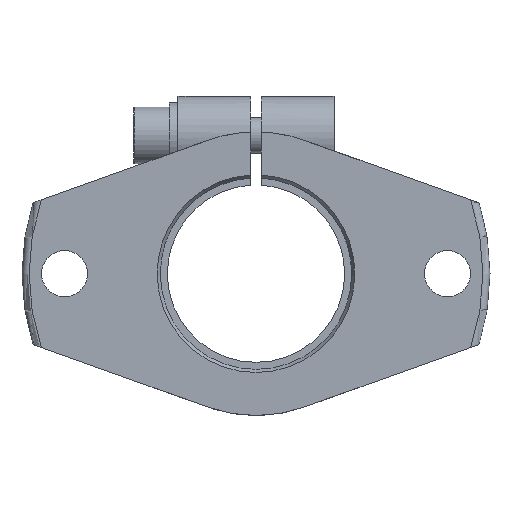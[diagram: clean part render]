
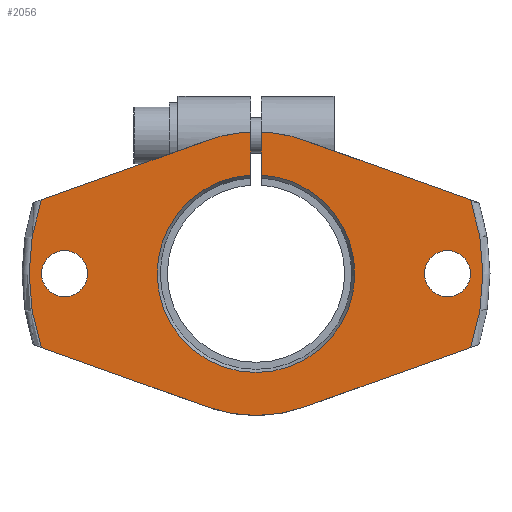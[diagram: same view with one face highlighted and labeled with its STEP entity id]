
A CAD part, left-side view. The second image highlights one B-rep face of the part: STEP entity #2056.
In plain terms, the highlighted planar face has unit normal (-1, 0, 0).
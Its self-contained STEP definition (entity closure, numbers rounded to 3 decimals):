
#481=CARTESIAN_POINT('',(0.0,-60.507,-20.854));
#482=VERTEX_POINT('',#481);
#519=CARTESIAN_POINT('',(0.0,-60.507,20.854));
#520=VERTEX_POINT('',#519);
#549=CARTESIAN_POINT('',(0.0,0.0,0.0));
#550=DIRECTION('',(1.0,0.0,0.0));
#551=DIRECTION('',(0.0,-1.0,0.0));
#552=AXIS2_PLACEMENT_3D('',#549,#550,#551);
#553=CIRCLE('',#552,64.0);
#554=EDGE_CURVE('',#520,#482,#553,.T.);
#637=CARTESIAN_POINT('',(0.0,-13.461,37.667));
#638=VERTEX_POINT('',#637);
#645=CARTESIAN_POINT('',(0.0,-13.461,37.667));
#646=DIRECTION('',(0.0,-0.942,-0.337));
#647=VECTOR('',#646,49.96);
#648=LINE('',#645,#647);
#649=EDGE_CURVE('',#638,#520,#648,.T.);
#684=CARTESIAN_POINT('',(0.0,60.507,20.854));
#685=VERTEX_POINT('',#684);
#722=CARTESIAN_POINT('',(0.0,60.507,-20.854));
#723=VERTEX_POINT('',#722);
#752=CARTESIAN_POINT('',(0.0,0.0,0.0));
#753=DIRECTION('',(1.0,0.0,0.0));
#754=DIRECTION('',(0.0,1.0,0.0));
#755=AXIS2_PLACEMENT_3D('',#752,#753,#754);
#756=CIRCLE('',#755,64.0);
#757=EDGE_CURVE('',#723,#685,#756,.T.);
#800=CARTESIAN_POINT('',(0.0,13.461,37.667));
#801=VERTEX_POINT('',#800);
#802=CARTESIAN_POINT('',(0.0,60.507,20.854));
#803=DIRECTION('',(0.0,-0.942,0.337));
#804=VECTOR('',#803,49.96);
#805=LINE('',#802,#804);
#806=EDGE_CURVE('',#685,#801,#805,.T.);
#1143=CARTESIAN_POINT('',(0.0,-13.461,-37.667));
#1144=VERTEX_POINT('',#1143);
#1151=CARTESIAN_POINT('',(0.0,13.461,-37.667));
#1152=VERTEX_POINT('',#1151);
#1153=CARTESIAN_POINT('',(0.0,0.0,0.0));
#1154=DIRECTION('',(1.0,0.0,0.0));
#1155=DIRECTION('',(0.0,1.0,0.0));
#1156=AXIS2_PLACEMENT_3D('',#1153,#1154,#1155);
#1157=CIRCLE('',#1156,40.0);
#1158=EDGE_CURVE('',#1144,#1152,#1157,.T.);
#1551=CARTESIAN_POINT('',(0.0,1.5,39.972));
#1552=VERTEX_POINT('',#1551);
#1559=CARTESIAN_POINT('',(0.0,1.5,27.826));
#1560=VERTEX_POINT('',#1559);
#1561=CARTESIAN_POINT('',(0.0,1.5,27.826));
#1562=DIRECTION('',(0.0,0.0,1.0));
#1563=VECTOR('',#1562,12.146);
#1564=LINE('',#1561,#1563);
#1565=EDGE_CURVE('',#1560,#1552,#1564,.T.);
#1676=CARTESIAN_POINT('',(0.0,60.5,0.));
#1677=VERTEX_POINT('',#1676);
#1678=CARTESIAN_POINT('',(0.0,54.0,0.));
#1679=DIRECTION('',(1.0,0.0,0.0));
#1680=DIRECTION('',(0.0,1.0,0.0));
#1681=AXIS2_PLACEMENT_3D('',#1678,#1679,#1680);
#1682=CIRCLE('',#1681,6.5);
#1683=EDGE_CURVE('',#1677,#1677,#1682,.T.);
#1704=CARTESIAN_POINT('',(0.0,-47.5,0.));
#1705=VERTEX_POINT('',#1704);
#1706=CARTESIAN_POINT('',(0.0,-54.,0.));
#1707=DIRECTION('',(1.0,0.0,0.0));
#1708=DIRECTION('',(0.0,1.0,0.0));
#1709=AXIS2_PLACEMENT_3D('',#1706,#1707,#1708);
#1710=CIRCLE('',#1709,6.5);
#1711=EDGE_CURVE('',#1705,#1705,#1710,.T.);
#1808=CARTESIAN_POINT('',(0.0,-1.5,27.826));
#1809=VERTEX_POINT('',#1808);
#1810=CARTESIAN_POINT('',(0.0,0.0,0.0));
#1811=DIRECTION('',(-1.0,0.0,0.0));
#1812=DIRECTION('',(0.0,0.0,-1.0));
#1813=AXIS2_PLACEMENT_3D('',#1810,#1811,#1812);
#1814=CIRCLE('',#1813,27.866);
#1815=EDGE_CURVE('',#1560,#1809,#1814,.T.);
#1887=CARTESIAN_POINT('',(0.0,-1.5,39.972));
#1888=VERTEX_POINT('',#1887);
#1889=CARTESIAN_POINT('',(0.0,-1.5,39.972));
#1890=DIRECTION('',(0.0,0.0,-1.0));
#1891=VECTOR('',#1890,12.146);
#1892=LINE('',#1889,#1891);
#1893=EDGE_CURVE('',#1888,#1809,#1892,.T.);
#1993=CARTESIAN_POINT('',(0.0,0.0,0.0));
#1994=DIRECTION('',(1.0,0.0,0.0));
#1995=DIRECTION('',(0.0,1.0,0.0));
#1996=AXIS2_PLACEMENT_3D('',#1993,#1994,#1995);
#1997=CIRCLE('',#1996,40.0);
#1998=EDGE_CURVE('',#801,#1552,#1997,.T.);
#2009=CARTESIAN_POINT('',(0.0,0.0,0.0));
#2010=DIRECTION('',(1.0,0.0,0.0));
#2011=DIRECTION('',(0.0,1.0,0.0));
#2012=AXIS2_PLACEMENT_3D('',#2009,#2010,#2011);
#2013=CIRCLE('',#2012,40.0);
#2014=EDGE_CURVE('',#1888,#638,#2013,.T.);
#2021=CARTESIAN_POINT('',(0.0,-38.903,0.));
#2022=DIRECTION('',(1.0,0.0,0.0));
#2023=DIRECTION('',(0.0,0.0,-1.0));
#2024=AXIS2_PLACEMENT_3D('',#2021,#2022,#2023);
#2025=PLANE('',#2024);
#2026=ORIENTED_EDGE('',*,*,#554,.F.);
#2027=ORIENTED_EDGE('',*,*,#649,.F.);
#2028=ORIENTED_EDGE('',*,*,#2014,.F.);
#2029=ORIENTED_EDGE('',*,*,#1893,.T.);
#2030=ORIENTED_EDGE('',*,*,#1815,.F.);
#2031=ORIENTED_EDGE('',*,*,#1565,.T.);
#2032=ORIENTED_EDGE('',*,*,#1998,.F.);
#2033=ORIENTED_EDGE('',*,*,#806,.F.);
#2034=ORIENTED_EDGE('',*,*,#757,.F.);
#2035=CARTESIAN_POINT('',(0.0,13.461,-37.667));
#2036=DIRECTION('',(0.0,0.942,0.337));
#2037=VECTOR('',#2036,49.96);
#2038=LINE('',#2035,#2037);
#2039=EDGE_CURVE('',#1152,#723,#2038,.T.);
#2040=ORIENTED_EDGE('',*,*,#2039,.F.);
#2041=ORIENTED_EDGE('',*,*,#1158,.F.);
#2042=CARTESIAN_POINT('',(0.0,-60.507,-20.854));
#2043=DIRECTION('',(0.0,0.942,-0.337));
#2044=VECTOR('',#2043,49.96);
#2045=LINE('',#2042,#2044);
#2046=EDGE_CURVE('',#482,#1144,#2045,.T.);
#2047=ORIENTED_EDGE('',*,*,#2046,.F.);
#2048=EDGE_LOOP('',(#2026,#2027,#2028,#2029,#2030,#2031,#2032,#2033,#2034,#2040,#2041,#2047));
#2049=FACE_OUTER_BOUND('',#2048,.T.);
#2050=ORIENTED_EDGE('',*,*,#1683,.T.);
#2051=EDGE_LOOP('',(#2050));
#2052=FACE_BOUND('',#2051,.T.);
#2053=ORIENTED_EDGE('',*,*,#1711,.T.);
#2054=EDGE_LOOP('',(#2053));
#2055=FACE_BOUND('',#2054,.T.);
#2056=ADVANCED_FACE('',(#2049,#2052,#2055),#2025,.F.);
